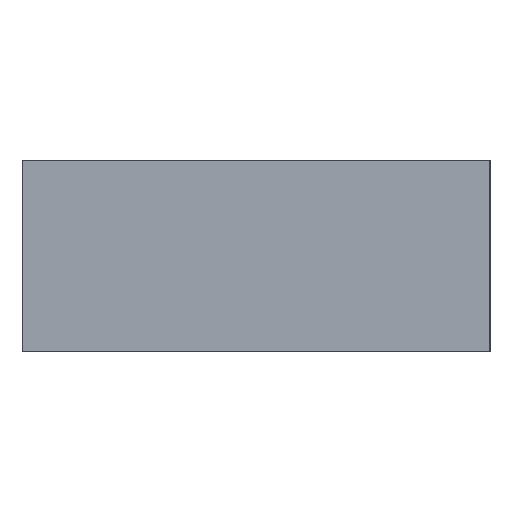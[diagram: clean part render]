
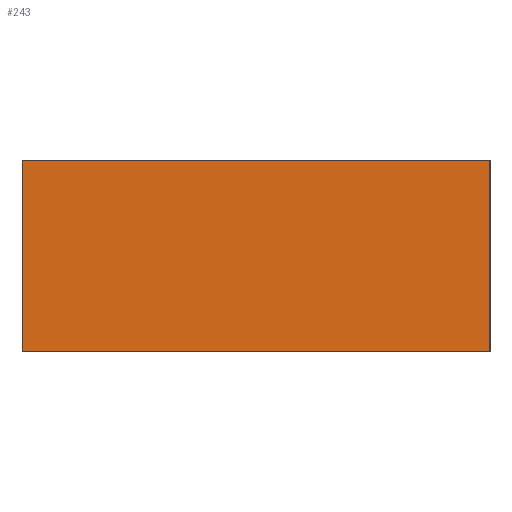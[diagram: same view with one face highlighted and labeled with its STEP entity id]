
A CAD part, left-side view. The second image highlights one B-rep face of the part: STEP entity #243.
In plain terms, the highlighted planar face has unit normal (-1, 0, 0).
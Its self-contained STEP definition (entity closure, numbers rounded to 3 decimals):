
#38 = DIRECTION ( 'NONE',  ( 0., 1., 0. ) ) ;
#46 = ORIENTED_EDGE ( 'NONE', *, *, #362, .F. ) ;
#58 = CARTESIAN_POINT ( 'NONE',  ( -76.2, 44., 9. ) ) ;
#65 = LINE ( 'NONE', #218, #602 ) ;
#115 = CARTESIAN_POINT ( 'NONE',  ( -76.2, 0., 9. ) ) ;
#117 = EDGE_CURVE ( 'NONE', #406, #546, #475, .T. ) ;
#137 = LINE ( 'NONE', #562, #548 ) ;
#145 = VERTEX_POINT ( 'NONE', #377 ) ;
#197 = VECTOR ( 'NONE', #324, 1000. ) ;
#214 = LINE ( 'NONE', #58, #590 ) ;
#218 = CARTESIAN_POINT ( 'NONE',  ( -76.2, 44., 9. ) ) ;
#243 = ADVANCED_FACE ( 'NONE', ( #438 ), #536, .T. ) ;
#288 = CARTESIAN_POINT ( 'NONE',  ( -76.2, 44.4, 5.376 ) ) ;
#312 = CARTESIAN_POINT ( 'NONE',  ( -76.2, 0., 9. ) ) ;
#324 = DIRECTION ( 'NONE',  ( 0., 0., -1. ) ) ;
#356 = ORIENTED_EDGE ( 'NONE', *, *, #455, .F. ) ;
#362 = EDGE_CURVE ( 'NONE', #546, #558, #137, .T. ) ;
#377 = CARTESIAN_POINT ( 'NONE',  ( -76.2, 44., 9. ) ) ;
#384 = DIRECTION ( 'NONE',  ( -1., 0., 0. ) ) ;
#406 = VERTEX_POINT ( 'NONE', #115 ) ;
#429 = EDGE_LOOP ( 'NONE', ( #510, #46, #534, #356 ) ) ;
#438 = FACE_OUTER_BOUND ( 'NONE', #429, .T. ) ;
#455 = EDGE_CURVE ( 'NONE', #145, #406, #65, .T. ) ;
#475 = LINE ( 'NONE', #312, #197 ) ;
#477 = DIRECTION ( 'NONE',  ( 0., -1., 0. ) ) ;
#490 = DIRECTION ( 'NONE',  ( 0., 0., 1. ) ) ;
#510 = ORIENTED_EDGE ( 'NONE', *, *, #563, .F. ) ;
#524 = CARTESIAN_POINT ( 'NONE',  ( -76.2, 44., -9. ) ) ;
#529 = DIRECTION ( 'NONE',  ( 0., 0., 1. ) ) ;
#534 = ORIENTED_EDGE ( 'NONE', *, *, #117, .F. ) ;
#536 = PLANE ( 'NONE',  #648 ) ;
#546 = VERTEX_POINT ( 'NONE', #570 ) ;
#548 = VECTOR ( 'NONE', #38, 1000. ) ;
#558 = VERTEX_POINT ( 'NONE', #524 ) ;
#562 = CARTESIAN_POINT ( 'NONE',  ( -76.2, 44., -9. ) ) ;
#563 = EDGE_CURVE ( 'NONE', #558, #145, #214, .T. ) ;
#570 = CARTESIAN_POINT ( 'NONE',  ( -76.2, 0., -9. ) ) ;
#590 = VECTOR ( 'NONE', #529, 1000. ) ;
#602 = VECTOR ( 'NONE', #477, 1000. ) ;
#648 = AXIS2_PLACEMENT_3D ( 'NONE', #288, #384, #490 ) ;
